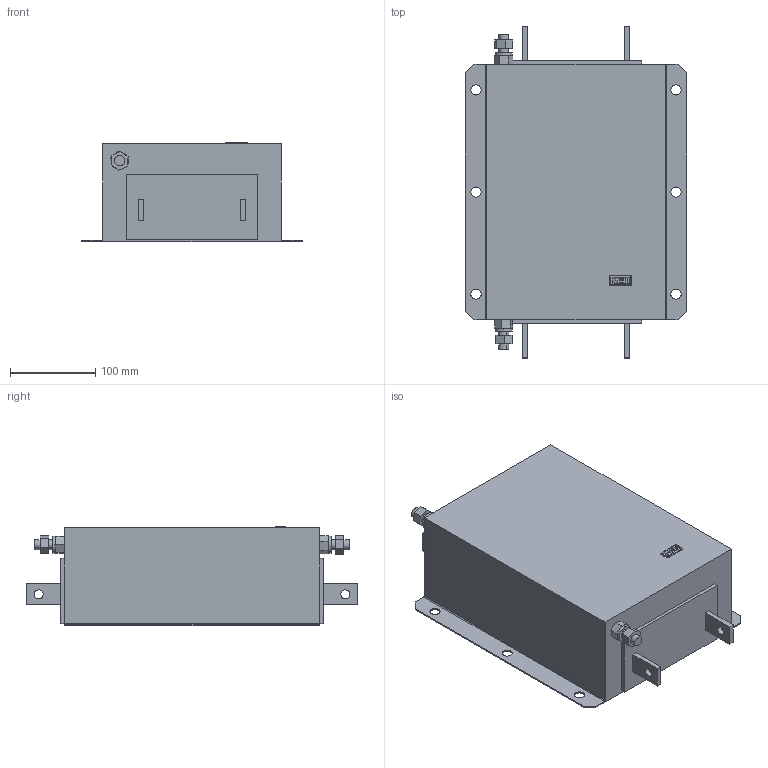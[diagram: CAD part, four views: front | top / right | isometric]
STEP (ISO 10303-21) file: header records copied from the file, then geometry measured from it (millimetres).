
FILE_DESCRIPTION (( 'STEP AP214' ), '1' );
FILE_NAME ('00E5X07-0028.STEP', '2023-07-10T13:21:47', ( '' ), ( '' ), 'SwSTEP 2.0', 'SolidWorks 2022', '' );
FILE_SCHEMA (( 'AUTOMOTIVE_DESIGN' ));
Length unit declared in the file: millimetre
Products named in the file (1): 00E5X07-0028
Bounding box: 260 x 390 x 116.52 mm (x, y, z)
Volume: 7407244 mm3; surface area: 290749.1 mm2
Topology: 1 solids, 1 shells, 192 faces, 481 edges, 310 vertices
Faces by surface type: plane 134, cylinder 45, bspline 13
Entity records: 6644 total; most frequent: CARTESIAN_POINT 1877, ORIENTED_EDGE 962, DIRECTION 855, EDGE_CURVE 481, VERTEX_POINT 310, VECTOR 287, LINE 287, AXIS2_PLACEMENT_3D 284
